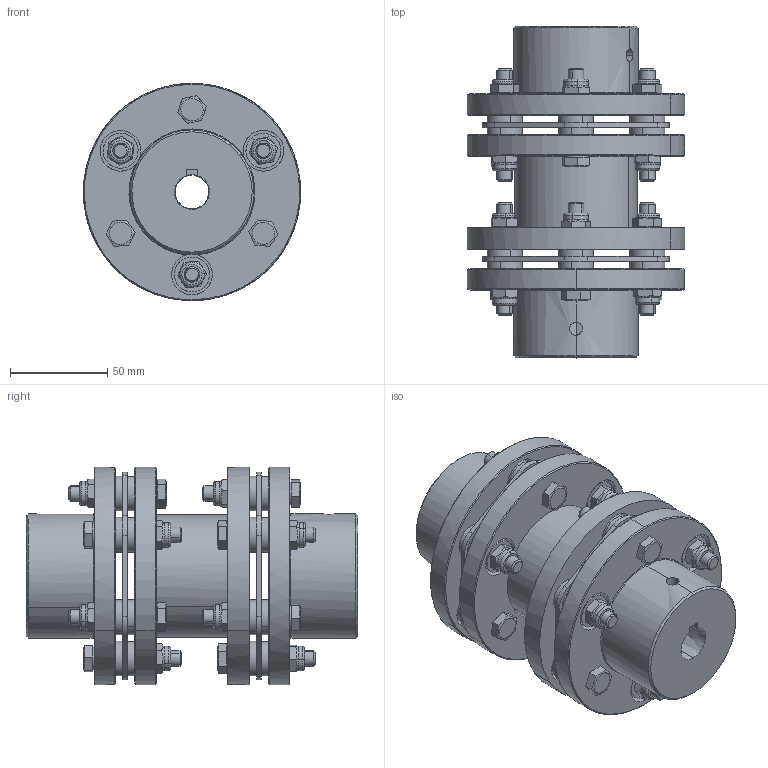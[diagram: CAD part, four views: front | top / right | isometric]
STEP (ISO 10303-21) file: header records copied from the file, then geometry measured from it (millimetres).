
FILE_DESCRIPTION( ( 'Unknown' ), '1' );
FILE_NAME( 'R:/utp/progettazione/3 D/X SITO/COUPLINGS/GTR/GTR-D/GTR-D 3.stp', 'Unknown', ( 'Unknown' ), ( 'Unknown' ), 'PSStep 10.1', 'Unknown', ' ' );
FILE_SCHEMA( ( 'AUTOMOTIVE_DESIGN { 1 0 10303 214 1 1 1 1 }' ) );
Length unit declared in the file: millimetre
Products named in the file (1): 1
Bounding box: 112 x 171 x 112 mm (x, y, z)
Volume: 687982.1 mm3; surface area: 160929.8 mm2
Topology: 1 solids, 13 shells, 727 faces, 1838 edges, 1179 vertices
Faces by surface type: bspline 727
Entity records: 39824 total; most frequent: CARTESIAN_POINT 20434, ORIENTED_EDGE 3652, EDGE_CURVE 1826, PRESENTATION_STYLE_ASSIGNMENT 1455, COLOUR_RGB 1455, B_SPLINE_CURVE_WITH_KNOTS 1254, VERTEX_POINT 1179, EDGE_LOOP 859
